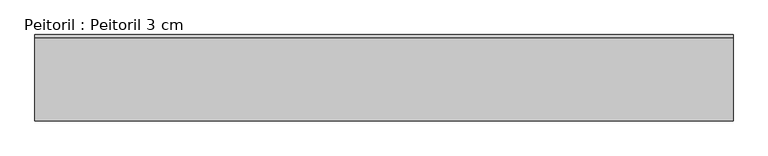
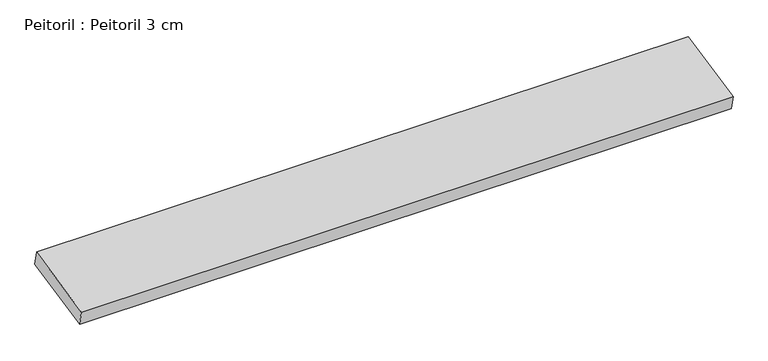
"""IFC4 building model written with IfcOpenShell, lengths in millimetres: proxy geometry, Peitoril : Peitoril 3 cm."""

from ifc_helpers import new_model, si_unit, frame, origin, place, context, project, spatial, polyline, outline, extrude, source, transform, mapped, element, save


def peitoril_peitoril_3_cm_e052e7be(model_context):
    return source(origin(), model_context, "Body", "SweptSolid", [
        extrude(outline(polyline([(0.0, 158.0245115), (1300.0, 158.0245115), (1300.0, 0.0), (0.0, 0.0), (0.0, 158.0245115)])), frame((811.81445, 32.3195188, 880.655572), z_axis=(0.0, -0.20791169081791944, 0.9781476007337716), x_axis=(-1.0, 0.0, 0.0)), (0.0, 0.0, 1.0), 30.0),
    ])


if __name__ == "__main__":
    model = new_model("IFC4")
    model_context = context("Model", 3, world=origin())
    ifc_project = project(units=[si_unit("LENGTHUNIT", "METRE", prefix="MILLI")], contexts=[model_context])
    site = spatial("IfcSite", under=ifc_project)
    building = spatial("IfcBuilding", under=site)
    placement = place(None, origin())
    peitoril_peitoril_3_cm_shape = peitoril_peitoril_3_cm_e052e7be(model_context)
    element("IfcBuildingElementProxy", 1, Name="Peitoril : Peitoril 3 cm", ObjectType="Peitoril : Peitoril 3 cm", at=placement, inside=building, context=model_context, shape_type="MappedRepresentation", body=[
        mapped(peitoril_peitoril_3_cm_shape, transform((0.0, 0.0, 0.0), x_axis=(1.0, 0.0, 0.0), y_axis=(0.0, 1.0, 0.0), z_axis=(0.0, 0.0, 1.0))),
    ])
    save(model, "model.ifc")
